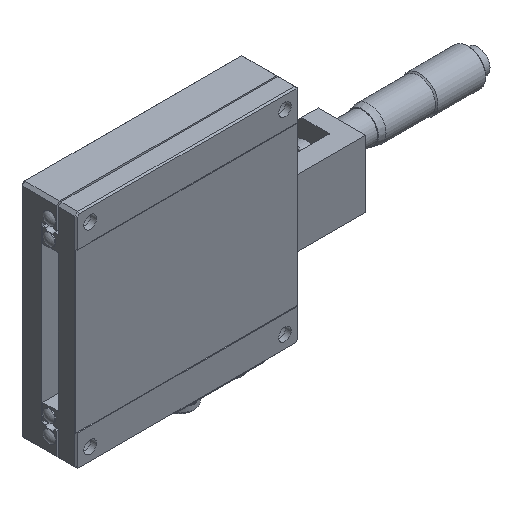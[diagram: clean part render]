
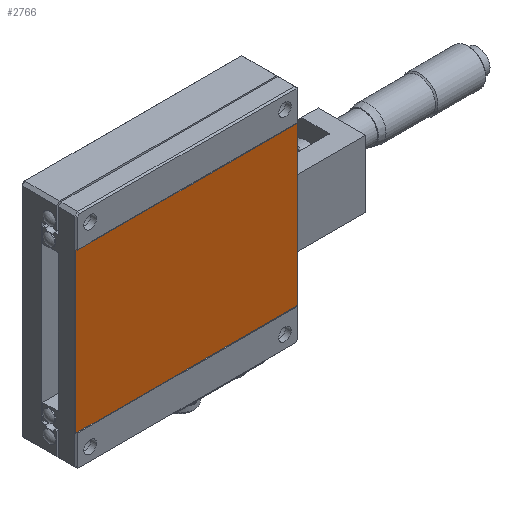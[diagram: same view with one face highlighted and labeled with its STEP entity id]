
A CAD part, isometric view. The second image highlights one B-rep face of the part: STEP entity #2766.
In plain terms, the highlighted planar face has unit normal (0, -1, 0).
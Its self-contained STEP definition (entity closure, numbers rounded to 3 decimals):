
#504=ORIENTED_EDGE('',*,*,#1068,.T.);
#505=ORIENTED_EDGE('',*,*,#1107,.T.);
#506=ORIENTED_EDGE('',*,*,#1072,.T.);
#507=ORIENTED_EDGE('',*,*,#1106,.F.);
#1068=EDGE_CURVE('',#1406,#1407,#1661,.F.);
#1072=EDGE_CURVE('',#1409,#1408,#1665,.F.);
#1106=EDGE_CURVE('',#1406,#1408,#1683,.T.);
#1107=EDGE_CURVE('',#1407,#1409,#1684,.T.);
#1406=VERTEX_POINT('',#4399);
#1407=VERTEX_POINT('',#4403);
#1408=VERTEX_POINT('',#4411);
#1409=VERTEX_POINT('',#4413);
#1661=LINE('',#4404,#1863);
#1665=LINE('',#4412,#1867);
#1683=LINE('',#4487,#1885);
#1684=LINE('',#4489,#1886);
#1863=VECTOR('',#3450,1000.);
#1867=VECTOR('',#3460,1000.);
#1885=VECTOR('',#3566,1000.);
#1886=VECTOR('',#3569,1000.);
#2059=EDGE_LOOP('',(#504,#505,#506,#507));
#2363=FACE_BOUND('',#2059,.T.);
#2638=PLANE('',#3036);
#2766=ADVANCED_FACE('',(#2363),#2638,.F.);
#3036=AXIS2_PLACEMENT_3D('',#4488,#3567,#3568);
#3450=DIRECTION('',(0.,0.,-1.));
#3460=DIRECTION('',(0.,0.,1.));
#3566=DIRECTION('',(-1.,0.,0.));
#3567=DIRECTION('',(0.,1.,0.));
#3568=DIRECTION('',(0.,0.,1.));
#3569=DIRECTION('',(-1.,0.,0.));
#4399=CARTESIAN_POINT('',(39.8,0.3,-28.5));
#4403=CARTESIAN_POINT('',(39.8,0.3,28.5));
#4404=CARTESIAN_POINT('',(39.8,0.3,39.));
#4411=CARTESIAN_POINT('',(-39.8,0.3,-28.5));
#4412=CARTESIAN_POINT('',(-39.8,0.3,-39.));
#4413=CARTESIAN_POINT('',(-39.8,0.3,28.5));
#4487=CARTESIAN_POINT('',(40.,0.3,-28.5));
#4488=CARTESIAN_POINT('',(40.,0.3,28.5));
#4489=CARTESIAN_POINT('',(40.,0.3,28.5));
